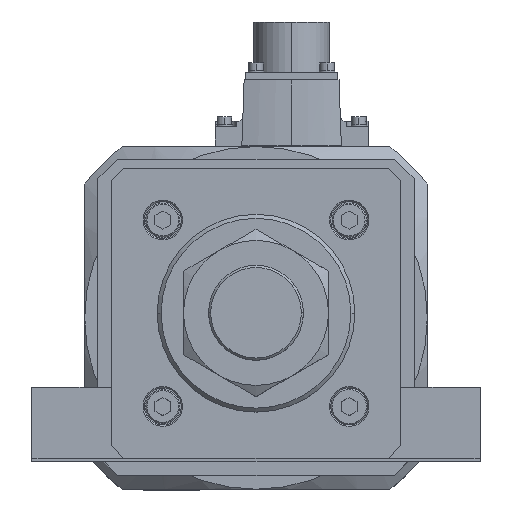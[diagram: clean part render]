
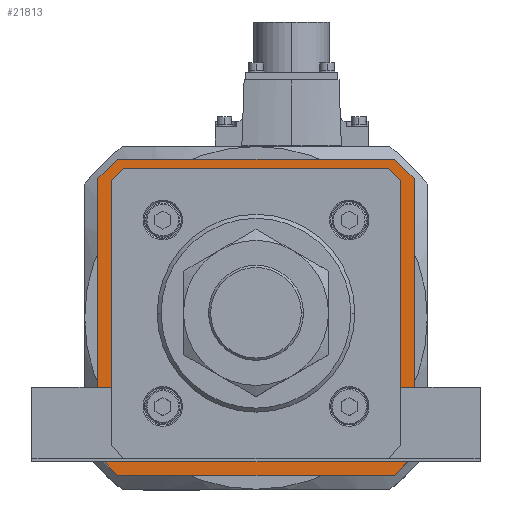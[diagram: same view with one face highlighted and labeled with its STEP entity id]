
A CAD part, top view. The second image highlights one B-rep face of the part: STEP entity #21813.
In plain terms, the highlighted planar face has unit normal (0, 0, 1).
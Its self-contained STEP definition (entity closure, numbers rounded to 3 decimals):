
#322 = LINE ( 'NONE', #18920, #30378 ) ;
#398 = DIRECTION ( 'NONE',  ( -0.707, 0.707, 0. ) ) ;
#409 = VECTOR ( 'NONE', #26127, 1000. ) ;
#546 = CARTESIAN_POINT ( 'NONE',  ( 60., 52.5, -119. ) ) ;
#893 = DIRECTION ( 'NONE',  ( 1., 0., 0. ) ) ;
#1128 = EDGE_CURVE ( 'NONE', #32300, #21698, #20991, .T. ) ;
#1532 = VERTEX_POINT ( 'NONE', #7292 ) ;
#1545 = EDGE_LOOP ( 'NONE', ( #30950, #14429, #2284, #22094, #3243, #8845, #13529, #21774 ) ) ;
#1621 = VECTOR ( 'NONE', #4002, 1000. ) ;
#1803 = EDGE_CURVE ( 'NONE', #8908, #24072, #8220, .T. ) ;
#2132 = VECTOR ( 'NONE', #25033, 1000. ) ;
#2148 = VERTEX_POINT ( 'NONE', #22526 ) ;
#2284 = ORIENTED_EDGE ( 'NONE', *, *, #17797, .F. ) ;
#2302 = VECTOR ( 'NONE', #24221, 1000. ) ;
#2363 = VECTOR ( 'NONE', #31133, 1000. ) ;
#2697 = EDGE_CURVE ( 'NONE', #24134, #34449, #19474, .T. ) ;
#2698 = DIRECTION ( 'NONE',  ( 0., -1., 0. ) ) ;
#3243 = ORIENTED_EDGE ( 'NONE', *, *, #1803, .F. ) ;
#3341 = ORIENTED_EDGE ( 'NONE', *, *, #35555, .T. ) ;
#3809 = CARTESIAN_POINT ( 'NONE',  ( -52.5, -60., -119. ) ) ;
#3935 = CARTESIAN_POINT ( 'NONE',  ( 52.5, 60., -119. ) ) ;
#4002 = DIRECTION ( 'NONE',  ( 0.707, -0.707, 0. ) ) ;
#4341 = LINE ( 'NONE', #26515, #36676 ) ;
#6419 = VERTEX_POINT ( 'NONE', #28637 ) ;
#7266 = CARTESIAN_POINT ( 'NONE',  ( -52.5, -60., -119. ) ) ;
#7292 = CARTESIAN_POINT ( 'NONE',  ( 49.593, -53.5, -119. ) ) ;
#7587 = EDGE_CURVE ( 'NONE', #23373, #15535, #4341, .T. ) ;
#8220 = LINE ( 'NONE', #14717, #409 ) ;
#8845 = ORIENTED_EDGE ( 'NONE', *, *, #24629, .F. ) ;
#8908 = VERTEX_POINT ( 'NONE', #14178 ) ;
#9079 = EDGE_CURVE ( 'NONE', #1532, #23373, #23412, .T. ) ;
#9089 = CARTESIAN_POINT ( 'NONE',  ( -53.5, -49.593, -119. ) ) ;
#9584 = LINE ( 'NONE', #3935, #30897 ) ;
#9694 = FACE_BOUND ( 'NONE', #32158, .T. ) ;
#10122 = EDGE_CURVE ( 'NONE', #24072, #25821, #13359, .T. ) ;
#10499 = VECTOR ( 'NONE', #2698, 1000. ) ;
#10620 = CARTESIAN_POINT ( 'NONE',  ( 53.5, -49.8, -119. ) ) ;
#11124 = EDGE_CURVE ( 'NONE', #35071, #2148, #25541, .T. ) ;
#11248 = CARTESIAN_POINT ( 'NONE',  ( 49.446, -53.646, -119. ) ) ;
#11898 = DIRECTION ( 'NONE',  ( -1., 0., 0. ) ) ;
#12201 = ORIENTED_EDGE ( 'NONE', *, *, #11124, .T. ) ;
#12559 = CARTESIAN_POINT ( 'NONE',  ( -60., -52.5, -119. ) ) ;
#12659 = LINE ( 'NONE', #13222, #34464 ) ;
#13222 = CARTESIAN_POINT ( 'NONE',  ( -53.5, 49.8, -119. ) ) ;
#13308 = VECTOR ( 'NONE', #13980, 1000. ) ;
#13359 = LINE ( 'NONE', #7266, #2363 ) ;
#13444 = DIRECTION ( 'NONE',  ( 0., 1., 0. ) ) ;
#13529 = ORIENTED_EDGE ( 'NONE', *, *, #16611, .F. ) ;
#13980 = DIRECTION ( 'NONE',  ( 0.707, -0.707, 0. ) ) ;
#14178 = CARTESIAN_POINT ( 'NONE',  ( 52.5, -60., -119. ) ) ;
#14182 = DIRECTION ( 'NONE',  ( 1., 0., 0. ) ) ;
#14348 = VECTOR ( 'NONE', #11898, 1000. ) ;
#14426 = CARTESIAN_POINT ( 'NONE',  ( 49.8, 53.5, -119. ) ) ;
#14429 = ORIENTED_EDGE ( 'NONE', *, *, #2697, .F. ) ;
#14488 = CARTESIAN_POINT ( 'NONE',  ( 53.646, 49.446, -119. ) ) ;
#14688 = CARTESIAN_POINT ( 'NONE',  ( -49.8, -53.5, -119. ) ) ;
#14717 = CARTESIAN_POINT ( 'NONE',  ( 52.5, -60., -119. ) ) ;
#15005 = VECTOR ( 'NONE', #22268, 1000. ) ;
#15145 = ORIENTED_EDGE ( 'NONE', *, *, #1128, .T. ) ;
#15275 = CARTESIAN_POINT ( 'NONE',  ( 49.593, 53.5, -119. ) ) ;
#15312 = DIRECTION ( 'NONE',  ( 0., 0., 1. ) ) ;
#15363 = CARTESIAN_POINT ( 'NONE',  ( -49.593, -53.5, -119. ) ) ;
#15535 = VERTEX_POINT ( 'NONE', #9089 ) ;
#16611 = EDGE_CURVE ( 'NONE', #28245, #31656, #29529, .T. ) ;
#16958 = AXIS2_PLACEMENT_3D ( 'NONE', #35654, #15312, #32337 ) ;
#16966 = CARTESIAN_POINT ( 'NONE',  ( 53.5, 49.593, -119. ) ) ;
#17257 = CARTESIAN_POINT ( 'NONE',  ( -53.5, 49.593, -119. ) ) ;
#17703 = CARTESIAN_POINT ( 'NONE',  ( -52.5, 60., -119. ) ) ;
#17797 = EDGE_CURVE ( 'NONE', #25821, #24134, #322, .T. ) ;
#18288 = ORIENTED_EDGE ( 'NONE', *, *, #34351, .T. ) ;
#18920 = CARTESIAN_POINT ( 'NONE',  ( -60., 52.5, -119. ) ) ;
#19474 = LINE ( 'NONE', #17703, #25849 ) ;
#19956 = LINE ( 'NONE', #14426, #28143 ) ;
#20047 = VERTEX_POINT ( 'NONE', #29648 ) ;
#20120 = CARTESIAN_POINT ( 'NONE',  ( 60., 52.5, -119. ) ) ;
#20726 = DIRECTION ( 'NONE',  ( 0.707, 0.707, 0. ) ) ;
#20991 = LINE ( 'NONE', #14488, #13308 ) ;
#21636 = CARTESIAN_POINT ( 'NONE',  ( -60., 52.5, -119. ) ) ;
#21698 = VERTEX_POINT ( 'NONE', #16966 ) ;
#21774 = ORIENTED_EDGE ( 'NONE', *, *, #29107, .F. ) ;
#21813 = ADVANCED_FACE ( 'NONE', ( #9694, #22844 ), #29383, .T. ) ;
#22094 = ORIENTED_EDGE ( 'NONE', *, *, #10122, .F. ) ;
#22268 = DIRECTION ( 'NONE',  ( 0., -1., 0. ) ) ;
#22526 = CARTESIAN_POINT ( 'NONE',  ( -49.593, 53.5, -119. ) ) ;
#22579 = ORIENTED_EDGE ( 'NONE', *, *, #9079, .T. ) ;
#22844 = FACE_OUTER_BOUND ( 'NONE', #1545, .T. ) ;
#23063 = LINE ( 'NONE', #11248, #34456 ) ;
#23373 = VERTEX_POINT ( 'NONE', #15363 ) ;
#23412 = LINE ( 'NONE', #14688, #14348 ) ;
#24072 = VERTEX_POINT ( 'NONE', #3809 ) ;
#24134 = VERTEX_POINT ( 'NONE', #21636 ) ;
#24221 = DIRECTION ( 'NONE',  ( 0.707, 0.707, 0. ) ) ;
#24629 = EDGE_CURVE ( 'NONE', #31656, #8908, #32182, .T. ) ;
#25033 = DIRECTION ( 'NONE',  ( -0.707, -0.707, 0. ) ) ;
#25260 = EDGE_CURVE ( 'NONE', #15535, #35071, #12659, .T. ) ;
#25541 = LINE ( 'NONE', #32598, #2302 ) ;
#25653 = DIRECTION ( 'NONE',  ( 0., 1., 0. ) ) ;
#25821 = VERTEX_POINT ( 'NONE', #12559 ) ;
#25849 = VECTOR ( 'NONE', #20726, 1000. ) ;
#26127 = DIRECTION ( 'NONE',  ( -1., 0., 0. ) ) ;
#26515 = CARTESIAN_POINT ( 'NONE',  ( -53.646, -49.446, -119. ) ) ;
#26951 = ORIENTED_EDGE ( 'NONE', *, *, #25260, .T. ) ;
#27113 = CARTESIAN_POINT ( 'NONE',  ( 60., 52.5, -119. ) ) ;
#28143 = VECTOR ( 'NONE', #14182, 1000. ) ;
#28245 = VERTEX_POINT ( 'NONE', #27113 ) ;
#28378 = EDGE_CURVE ( 'NONE', #20047, #1532, #23063, .T. ) ;
#28637 = CARTESIAN_POINT ( 'NONE',  ( 52.5, 60., -119. ) ) ;
#29107 = EDGE_CURVE ( 'NONE', #6419, #28245, #32580, .T. ) ;
#29373 = CARTESIAN_POINT ( 'NONE',  ( -52.5, 60., -119. ) ) ;
#29383 = PLANE ( 'NONE',  #16958 ) ;
#29529 = LINE ( 'NONE', #20120, #10499 ) ;
#29648 = CARTESIAN_POINT ( 'NONE',  ( 53.5, -49.593, -119. ) ) ;
#30378 = VECTOR ( 'NONE', #25653, 1000. ) ;
#30897 = VECTOR ( 'NONE', #893, 1000. ) ;
#30950 = ORIENTED_EDGE ( 'NONE', *, *, #35400, .F. ) ;
#31133 = DIRECTION ( 'NONE',  ( -0.707, 0.707, 0. ) ) ;
#31656 = VERTEX_POINT ( 'NONE', #34910 ) ;
#32158 = EDGE_LOOP ( 'NONE', ( #18288, #15145, #3341, #37217, #22579, #34507, #26951, #12201 ) ) ;
#32182 = LINE ( 'NONE', #35732, #2132 ) ;
#32300 = VERTEX_POINT ( 'NONE', #15275 ) ;
#32337 = DIRECTION ( 'NONE',  ( 1., 0., 0. ) ) ;
#32580 = LINE ( 'NONE', #546, #1621 ) ;
#32598 = CARTESIAN_POINT ( 'NONE',  ( -49.446, 53.646, -119. ) ) ;
#34347 = DIRECTION ( 'NONE',  ( -0.707, -0.707, 0. ) ) ;
#34351 = EDGE_CURVE ( 'NONE', #2148, #32300, #19956, .T. ) ;
#34449 = VERTEX_POINT ( 'NONE', #29373 ) ;
#34456 = VECTOR ( 'NONE', #34347, 1000. ) ;
#34464 = VECTOR ( 'NONE', #13444, 1000. ) ;
#34507 = ORIENTED_EDGE ( 'NONE', *, *, #7587, .T. ) ;
#34910 = CARTESIAN_POINT ( 'NONE',  ( 60., -52.5, -119. ) ) ;
#35071 = VERTEX_POINT ( 'NONE', #17257 ) ;
#35400 = EDGE_CURVE ( 'NONE', #34449, #6419, #9584, .T. ) ;
#35555 = EDGE_CURVE ( 'NONE', #21698, #20047, #37732, .T. ) ;
#35654 = CARTESIAN_POINT ( 'NONE',  ( 0., 0., -119. ) ) ;
#35732 = CARTESIAN_POINT ( 'NONE',  ( 60., -52.5, -119. ) ) ;
#36676 = VECTOR ( 'NONE', #398, 1000. ) ;
#37217 = ORIENTED_EDGE ( 'NONE', *, *, #28378, .T. ) ;
#37732 = LINE ( 'NONE', #10620, #15005 ) ;
